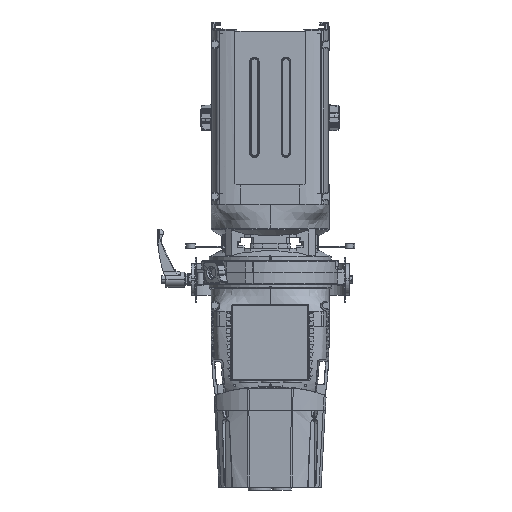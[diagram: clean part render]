
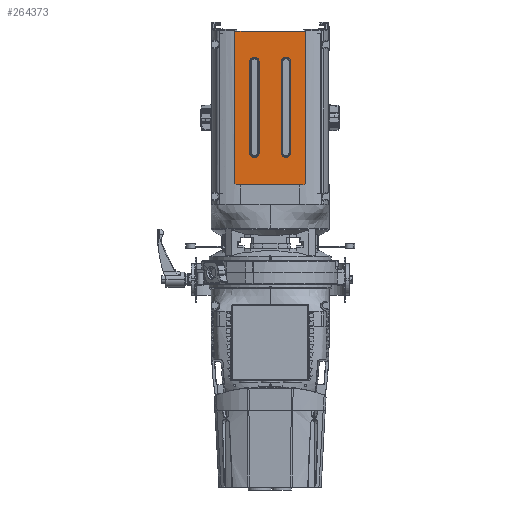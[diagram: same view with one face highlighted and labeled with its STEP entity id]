
A CAD part, front view. The second image highlights one B-rep face of the part: STEP entity #264373.
In plain terms, the highlighted planar face has unit normal (0, -1, 0).
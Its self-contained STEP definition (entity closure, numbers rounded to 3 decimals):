
#1296 = DIRECTION ( 'NONE',  ( 0., 0., -1. ) ) ;
#2403 = ORIENTED_EDGE ( 'NONE', *, *, #13439, .T. ) ;
#3022 = VERTEX_POINT ( 'NONE', #178268 ) ;
#7894 = CARTESIAN_POINT ( 'NONE',  ( -22.787, -114.032, 73.287 ) ) ;
#13439 = EDGE_CURVE ( 'NONE', #52474, #286906, #54084, .T. ) ;
#18369 = EDGE_CURVE ( 'NONE', #244182, #79341, #299900, .T. ) ;
#27693 = VECTOR ( 'NONE', #148209, 1000. ) ;
#32966 = CIRCLE ( 'NONE', #110994, 6. ) ;
#34580 = LINE ( 'NONE', #127674, #138423 ) ;
#36843 = CARTESIAN_POINT ( 'NONE',  ( 41.917, -114.032, 25.74 ) ) ;
#38314 = CIRCLE ( 'NONE', #281816, 6. ) ;
#41640 = VECTOR ( 'NONE', #162726, 1000. ) ;
#41978 = ORIENTED_EDGE ( 'NONE', *, *, #271580, .T. ) ;
#45413 = VECTOR ( 'NONE', #204070, 1000. ) ;
#46115 = ORIENTED_EDGE ( 'NONE', *, *, #141953, .T. ) ;
#49489 = AXIS2_PLACEMENT_3D ( 'NONE', #140030, #190256, #1296 ) ;
#52474 = VERTEX_POINT ( 'NONE', #255231 ) ;
#54084 = CIRCLE ( 'NONE', #273062, 6. ) ;
#58204 = DIRECTION ( 'NONE',  ( 0., 0., 1. ) ) ;
#58723 = FACE_OUTER_BOUND ( 'NONE', #118179, .T. ) ;
#59960 = DIRECTION ( 'NONE',  ( 0., 0., -1. ) ) ;
#59985 = ORIENTED_EDGE ( 'NONE', *, *, #257924, .T. ) ;
#60375 = EDGE_LOOP ( 'NONE', ( #59985, #269332, #41978, #46115, #111231 ) ) ;
#61446 = DIRECTION ( 'NONE',  ( 0.707, 0., 0.707 ) ) ;
#63271 = ORIENTED_EDGE ( 'NONE', *, *, #134160, .F. ) ;
#64123 = ORIENTED_EDGE ( 'NONE', *, *, #18369, .T. ) ;
#64575 = DIRECTION ( 'NONE',  ( 0., 0., 1. ) ) ;
#65545 = EDGE_CURVE ( 'NONE', #232668, #175902, #247287, .T. ) ;
#67066 = ORIENTED_EDGE ( 'NONE', *, *, #105346, .F. ) ;
#70932 = LINE ( 'NONE', #162322, #151331 ) ;
#73467 = DIRECTION ( 'NONE',  ( 0., 0., -1. ) ) ;
#73500 = VECTOR ( 'NONE', #64575, 1000. ) ;
#76697 = EDGE_CURVE ( 'NONE', #3022, #181562, #70932, .T. ) ;
#79341 = VERTEX_POINT ( 'NONE', #170815 ) ;
#81897 = EDGE_LOOP ( 'NONE', ( #64123, #182335, #2403, #113415, #88647 ) ) ;
#85702 = VERTEX_POINT ( 'NONE', #215971 ) ;
#88647 = ORIENTED_EDGE ( 'NONE', *, *, #196650, .T. ) ;
#90943 = CIRCLE ( 'NONE', #207844, 6. ) ;
#93812 = DIRECTION ( 'NONE',  ( 0., 0., -1. ) ) ;
#94111 = EDGE_CURVE ( 'NONE', #163813, #151076, #32966, .T. ) ;
#94676 = CARTESIAN_POINT ( 'NONE',  ( 23.213, -114.032, 188.283 ) ) ;
#99001 = VERTEX_POINT ( 'NONE', #155818 ) ;
#103346 = CARTESIAN_POINT ( 'NONE',  ( 11.213, -114.032, 188.283 ) ) ;
#105346 = EDGE_CURVE ( 'NONE', #3022, #167106, #235999, .T. ) ;
#106122 = DIRECTION ( 'NONE',  ( 0., 1., 0. ) ) ;
#108092 = CARTESIAN_POINT ( 'NONE',  ( -22.787, -114.032, 188.287 ) ) ;
#108389 = EDGE_CURVE ( 'NONE', #286906, #180310, #291794, .T. ) ;
#110994 = AXIS2_PLACEMENT_3D ( 'NONE', #210399, #280439, #233212 ) ;
#111107 = DIRECTION ( 'NONE',  ( 0., 1., 0. ) ) ;
#111231 = ORIENTED_EDGE ( 'NONE', *, *, #128531, .T. ) ;
#113415 = ORIENTED_EDGE ( 'NONE', *, *, #108389, .T. ) ;
#117372 = VECTOR ( 'NONE', #193254, 1000. ) ;
#118179 = EDGE_LOOP ( 'NONE', ( #63271, #162564, #188941, #157725, #67066, #169426 ) ) ;
#123184 = CARTESIAN_POINT ( 'NONE',  ( -47.502, -114.032, 227.535 ) ) ;
#127674 = CARTESIAN_POINT ( 'NONE',  ( -2.783, -114.032, 32.253 ) ) ;
#128531 = EDGE_CURVE ( 'NONE', #289934, #99001, #143086, .T. ) ;
#128690 = CARTESIAN_POINT ( 'NONE',  ( 41.927, -114.032, 34.035 ) ) ;
#131416 = CARTESIAN_POINT ( 'NONE',  ( -22.787, -114.032, 73.287 ) ) ;
#133357 = VECTOR ( 'NONE', #59960, 1000. ) ;
#134160 = EDGE_CURVE ( 'NONE', #144326, #181562, #34580, .T. ) ;
#135448 = CARTESIAN_POINT ( 'NONE',  ( -16.787, -114.032, 7.445 ) ) ;
#138288 = CARTESIAN_POINT ( 'NONE',  ( 41.917, -114.032, 227.535 ) ) ;
#138423 = VECTOR ( 'NONE', #220630, 1000. ) ;
#138629 = CARTESIAN_POINT ( 'NONE',  ( -28.787, -114.032, 73.287 ) ) ;
#140030 = CARTESIAN_POINT ( 'NONE',  ( 17.213, -114.032, 73.283 ) ) ;
#141045 = CARTESIAN_POINT ( 'NONE',  ( 17.213, -114.032, 73.283 ) ) ;
#141953 = EDGE_CURVE ( 'NONE', #85702, #289934, #151733, .T. ) ;
#143086 = CIRCLE ( 'NONE', #225856, 6. ) ;
#144326 = VERTEX_POINT ( 'NONE', #217173 ) ;
#146842 = AXIS2_PLACEMENT_3D ( 'NONE', #291952, #106122, #221974 ) ;
#147472 = LINE ( 'NONE', #123184, #117372 ) ;
#148209 = DIRECTION ( 'NONE',  ( 0., 0., -1. ) ) ;
#149734 = CARTESIAN_POINT ( 'NONE',  ( -45.709, -114.032, 32.253 ) ) ;
#151076 = VERTEX_POINT ( 'NONE', #94676 ) ;
#151331 = VECTOR ( 'NONE', #255487, 1000. ) ;
#151733 = CIRCLE ( 'NONE', #49489, 6. ) ;
#153707 = DIRECTION ( 'NONE',  ( 0., 0., -1. ) ) ;
#155818 = CARTESIAN_POINT ( 'NONE',  ( 11.213, -114.032, 73.283 ) ) ;
#157725 = ORIENTED_EDGE ( 'NONE', *, *, #283007, .F. ) ;
#162322 = CARTESIAN_POINT ( 'NONE',  ( -47.492, -114.032, 34.035 ) ) ;
#162564 = ORIENTED_EDGE ( 'NONE', *, *, #260633, .T. ) ;
#162726 = DIRECTION ( 'NONE',  ( 0., 0., 1. ) ) ;
#163813 = VERTEX_POINT ( 'NONE', #103346 ) ;
#167106 = VERTEX_POINT ( 'NONE', #270827 ) ;
#169426 = ORIENTED_EDGE ( 'NONE', *, *, #76697, .T. ) ;
#170815 = CARTESIAN_POINT ( 'NONE',  ( -16.787, -114.032, 73.287 ) ) ;
#175816 = CARTESIAN_POINT ( 'NONE',  ( 23.213, -114.032, 7.445 ) ) ;
#175902 = VERTEX_POINT ( 'NONE', #263924 ) ;
#178268 = CARTESIAN_POINT ( 'NONE',  ( -47.502, -114.032, 34.045 ) ) ;
#180310 = VERTEX_POINT ( 'NONE', #292096 ) ;
#181562 = VERTEX_POINT ( 'NONE', #149734 ) ;
#182335 = ORIENTED_EDGE ( 'NONE', *, *, #298752, .T. ) ;
#188941 = ORIENTED_EDGE ( 'NONE', *, *, #65545, .F. ) ;
#190021 = FACE_BOUND ( 'NONE', #81897, .T. ) ;
#190256 = DIRECTION ( 'NONE',  ( 0., 1., 0. ) ) ;
#193254 = DIRECTION ( 'NONE',  ( 1., 0., 0. ) ) ;
#195517 = LINE ( 'NONE', #288460, #218218 ) ;
#196650 = EDGE_CURVE ( 'NONE', #180310, #244182, #38314, .T. ) ;
#201801 = LINE ( 'NONE', #128690, #222975 ) ;
#202088 = FACE_BOUND ( 'NONE', #60375, .T. ) ;
#204070 = DIRECTION ( 'NONE',  ( 0., 0., -1. ) ) ;
#207844 = AXIS2_PLACEMENT_3D ( 'NONE', #131416, #224391, #241236 ) ;
#209749 = DIRECTION ( 'NONE',  ( 0., 1., 0. ) ) ;
#210399 = CARTESIAN_POINT ( 'NONE',  ( 17.213, -114.032, 188.283 ) ) ;
#215971 = CARTESIAN_POINT ( 'NONE',  ( 23.213, -114.032, 73.283 ) ) ;
#217173 = CARTESIAN_POINT ( 'NONE',  ( 40.144, -114.032, 32.253 ) ) ;
#218218 = VECTOR ( 'NONE', #58204, 1000. ) ;
#219457 = CARTESIAN_POINT ( 'NONE',  ( -16.787, -114.032, 188.287 ) ) ;
#220630 = DIRECTION ( 'NONE',  ( -1., 0., 0. ) ) ;
#221974 = DIRECTION ( 'NONE',  ( 0., 0., -1. ) ) ;
#222975 = VECTOR ( 'NONE', #61446, 1000. ) ;
#224391 = DIRECTION ( 'NONE',  ( 0., 1., 0. ) ) ;
#225856 = AXIS2_PLACEMENT_3D ( 'NONE', #141045, #209749, #93812 ) ;
#232668 = VERTEX_POINT ( 'NONE', #138288 ) ;
#233212 = DIRECTION ( 'NONE',  ( 0., 0., -1. ) ) ;
#234660 = CARTESIAN_POINT ( 'NONE',  ( 17.213, -114.032, 67.283 ) ) ;
#235999 = LINE ( 'NONE', #278681, #41640 ) ;
#241236 = DIRECTION ( 'NONE',  ( 0., 0., -1. ) ) ;
#244182 = VERTEX_POINT ( 'NONE', #219457 ) ;
#247287 = LINE ( 'NONE', #36843, #27693 ) ;
#249151 = CARTESIAN_POINT ( 'NONE',  ( -28.787, -114.032, 7.445 ) ) ;
#255231 = CARTESIAN_POINT ( 'NONE',  ( -22.787, -114.032, 67.287 ) ) ;
#255487 = DIRECTION ( 'NONE',  ( 0.707, 0., -0.707 ) ) ;
#257924 = EDGE_CURVE ( 'NONE', #99001, #163813, #195517, .T. ) ;
#260633 = EDGE_CURVE ( 'NONE', #144326, #175902, #201801, .T. ) ;
#263924 = CARTESIAN_POINT ( 'NONE',  ( 41.917, -114.032, 34.025 ) ) ;
#264373 = ADVANCED_FACE ( 'NONE', ( #190021, #202088, #58723 ), #273685, .F. ) ;
#269332 = ORIENTED_EDGE ( 'NONE', *, *, #94111, .T. ) ;
#270827 = CARTESIAN_POINT ( 'NONE',  ( -47.502, -114.032, 227.535 ) ) ;
#271580 = EDGE_CURVE ( 'NONE', #151076, #85702, #296167, .T. ) ;
#273062 = AXIS2_PLACEMENT_3D ( 'NONE', #7894, #283794, #73467 ) ;
#273685 = PLANE ( 'NONE',  #146842 ) ;
#278681 = CARTESIAN_POINT ( 'NONE',  ( -47.502, -114.032, 25.74 ) ) ;
#280439 = DIRECTION ( 'NONE',  ( 0., 1., 0. ) ) ;
#281816 = AXIS2_PLACEMENT_3D ( 'NONE', #108092, #111107, #153707 ) ;
#283007 = EDGE_CURVE ( 'NONE', #167106, #232668, #147472, .T. ) ;
#283794 = DIRECTION ( 'NONE',  ( 0., 1., 0. ) ) ;
#286906 = VERTEX_POINT ( 'NONE', #138629 ) ;
#288460 = CARTESIAN_POINT ( 'NONE',  ( 11.213, -114.032, 7.445 ) ) ;
#289934 = VERTEX_POINT ( 'NONE', #234660 ) ;
#291794 = LINE ( 'NONE', #249151, #73500 ) ;
#291952 = CARTESIAN_POINT ( 'NONE',  ( -2.783, -114.032, 7.445 ) ) ;
#292096 = CARTESIAN_POINT ( 'NONE',  ( -28.787, -114.032, 188.287 ) ) ;
#296167 = LINE ( 'NONE', #175816, #133357 ) ;
#298752 = EDGE_CURVE ( 'NONE', #79341, #52474, #90943, .T. ) ;
#299900 = LINE ( 'NONE', #135448, #45413 ) ;
